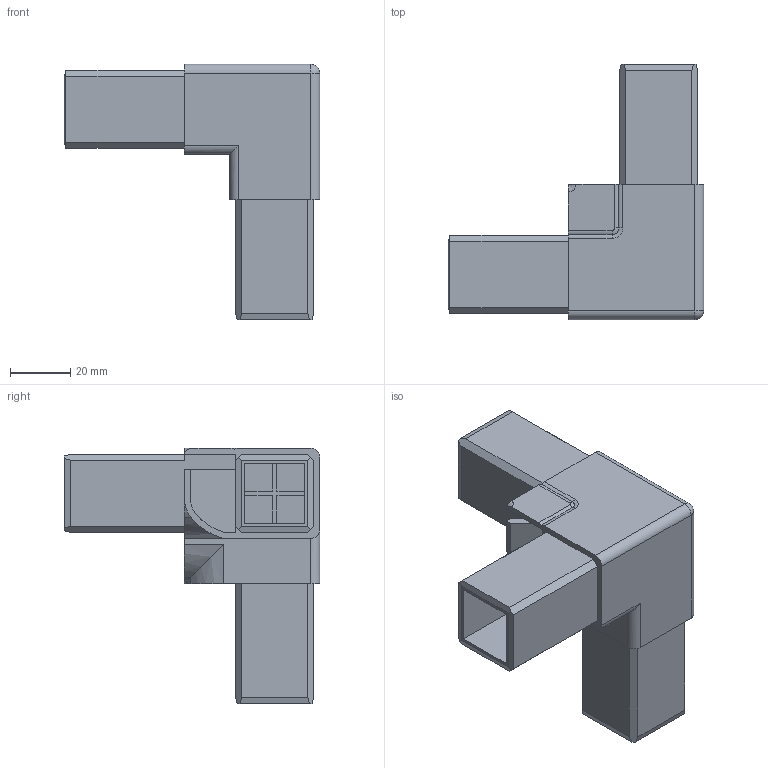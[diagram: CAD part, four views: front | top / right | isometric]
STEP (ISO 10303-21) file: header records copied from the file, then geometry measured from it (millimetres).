
FILE_DESCRIPTION (( 'STEP AP214' ), '1' );
FILE_NAME ('L15851.step', '2024-12-03T16:20:08', ( '' ), ( '' ), 'SwSTEP 2.0', 'SolidWorks 2023', '' );
FILE_SCHEMA (( 'AUTOMOTIVE_DESIGN' ));
Length unit declared in the file: millimetre
Products named in the file (1): L15851
Bounding box: 85 x 85 x 85 mm (x, y, z)
Volume: 75282 mm3; surface area: 49439.5 mm2
Topology: 1 solids, 1 shells, 132 faces, 400 edges, 259 vertices
Faces by surface type: plane 96, cylinder 29, torus 6, sphere 1
Entity records: 4444 total; most frequent: CARTESIAN_POINT 828, ORIENTED_EDGE 794, DIRECTION 702, EDGE_CURVE 397, LINE 332, VECTOR 332, VERTEX_POINT 259, AXIS2_PLACEMENT_3D 185
